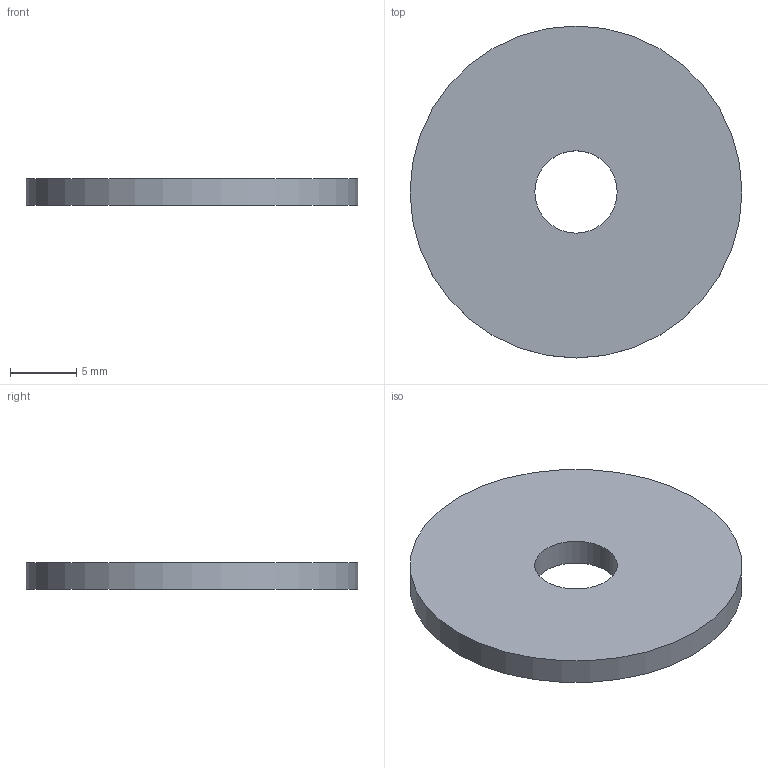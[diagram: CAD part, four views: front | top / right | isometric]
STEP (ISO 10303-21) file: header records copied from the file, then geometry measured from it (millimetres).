
FILE_DESCRIPTION(/* description */ ('Sliding Disk Polly 1'),/* implementation_level */ '2;1');
FILE_NAME(/* name */ 'Z:\Werkstatt Server\Projekte\Atlas\Entwicklung u. Konstruktion\Konstruktion\CAD Daten\ITkPixToolV2.0\Baremodule Jig\ITPTv2.01.00.26.stp',/* time_stamp */ '2021-08-06T14:58:07+02:00',/* author */ ('Tim Kanngießer'),/* organization */ (''),/* preprocessor_version */ 'ST-DEVELOPER v18.1',/* originating_system */ 'Autodesk Inventor 2022',/* authorisation */ '');
FILE_SCHEMA (('AUTOMOTIVE_DESIGN { 1 0 10303 214 3 1 1 }'));
Length unit declared in the file: millimetre
Products named in the file (1): ITPTv2.0.00.26
Bounding box: 25 x 25 x 2 mm (x, y, z)
Volume: 921.4 mm3; surface area: 1117.4 mm2
Topology: 1 solids, 1 shells, 4 faces, 6 edges, 4 vertices
Faces by surface type: cylinder 2, plane 2
Full cylindrical faces by diameter (mm): 6.2 x1, 25 x1
Entity records: 139 total; most frequent: DIRECTION 20, CARTESIAN_POINT 15, ORIENTED_EDGE 12, AXIS2_PLACEMENT_3D 9, EDGE_LOOP 6, EDGE_CURVE 6, FACE_OUTER_BOUND 4, CIRCLE 4
